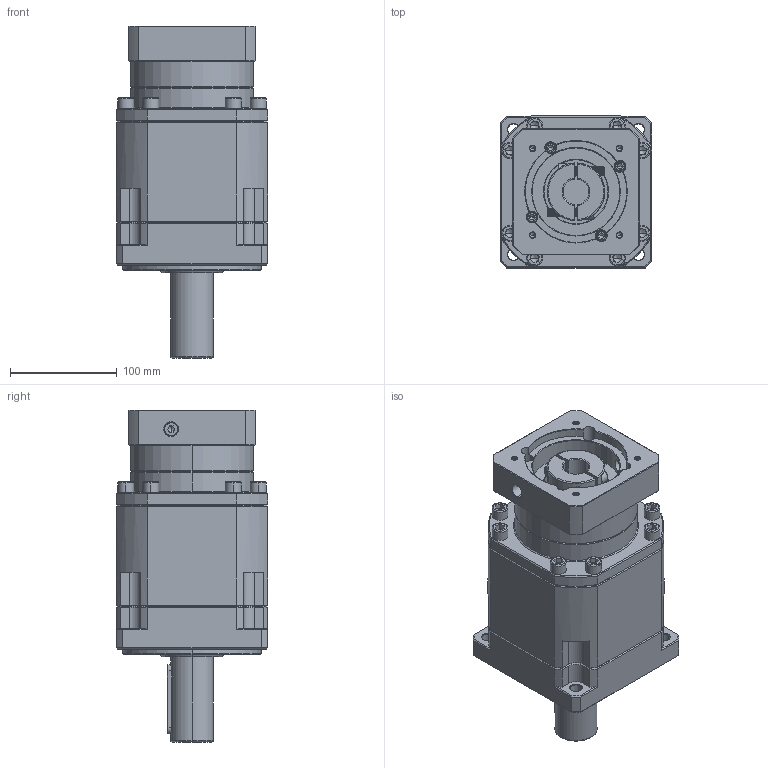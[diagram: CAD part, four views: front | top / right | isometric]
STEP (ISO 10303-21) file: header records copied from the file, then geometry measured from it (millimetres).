
FILE_DESCRIPTION (( 'STEP AP214' ), '1' );
FILE_NAME ('ZB142A-D40-L3-P2-24-95-115-M6.step', '2023-09-02T02:52:33', ( '' ), ( '' ), 'SwSTEP 2.0', 'SolidWorks 2016', '' );
FILE_SCHEMA (( 'AUTOMOTIVE_DESIGN' ));
Length unit declared in the file: millimetre
Products named in the file (1): ZB142A-D40-L3-P2-24-95-115-M6
Bounding box: 142 x 142 x 310.7 mm (x, y, z)
Volume: 3610462.7 mm3; surface area: 251011 mm2
Topology: 6 solids, 6 shells, 2561 faces, 6717 edges, 4278 vertices
Faces by surface type: plane 1205, cylinder 489, bspline 425, cone 404, torus 38
Entity records: 135792 total; most frequent: CARTESIAN_POINT 47864, ORIENTED_EDGE 13326, DIRECTION 10923, EDGE_CURVE 6663, VERTEX_POINT 4278, LINE 4217, VECTOR 4217, AXIS2_PLACEMENT_3D 3353
